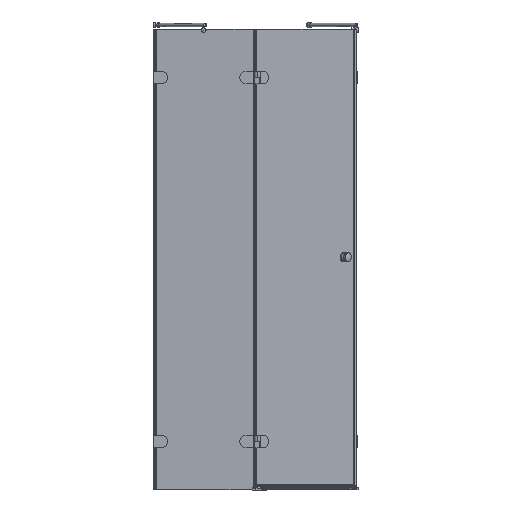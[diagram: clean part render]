
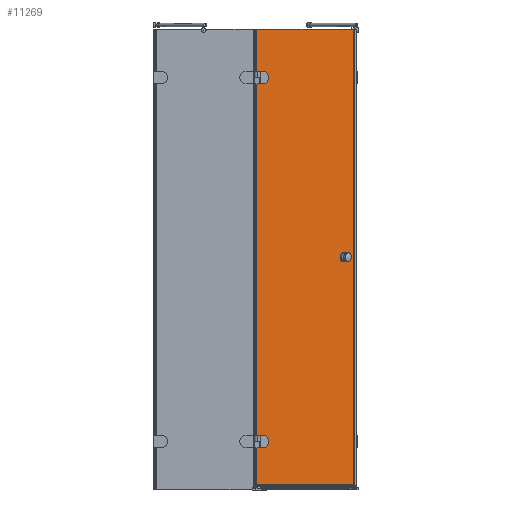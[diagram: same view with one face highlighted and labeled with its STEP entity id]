
A CAD part, front view. The second image highlights one B-rep face of the part: STEP entity #11269.
In plain terms, the highlighted planar face has unit normal (0.707, -0.707, 0).
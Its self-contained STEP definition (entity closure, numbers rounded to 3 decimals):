
#1633=CARTESIAN_POINT('',(824.443,-20.333,-278.056));
#1634=VERTEX_POINT('',#1633);
#1641=CARTESIAN_POINT('',(824.443,-20.333,-330.056));
#1642=VERTEX_POINT('',#1641);
#1643=CARTESIAN_POINT('',(824.443,-20.333,-330.056));
#1644=DIRECTION('',(0.0,0.0,1.0));
#1645=VECTOR('',#1644,52.0);
#1646=LINE('',#1643,#1645);
#1647=EDGE_CURVE('',#1642,#1634,#1646,.T.);
#1672=CARTESIAN_POINT('',(840.707,-4.07,-330.056));
#1673=VERTEX_POINT('',#1672);
#1674=CARTESIAN_POINT('',(840.707,-4.07,-330.056));
#1675=DIRECTION('',(-0.707,-0.707,0.));
#1676=VECTOR('',#1675,23.);
#1677=LINE('',#1674,#1676);
#1678=EDGE_CURVE('',#1673,#1642,#1677,.T.);
#1704=CARTESIAN_POINT('',(840.707,-4.07,-278.056));
#1705=VERTEX_POINT('',#1704);
#1706=CARTESIAN_POINT('',(840.707,-4.07,-304.056));
#1707=DIRECTION('',(-0.707,0.707,0.0));
#1708=DIRECTION('',(0.0,0.0,1.0));
#1709=AXIS2_PLACEMENT_3D('',#1706,#1707,#1708);
#1710=CIRCLE('',#1709,26.0);
#1711=EDGE_CURVE('',#1705,#1673,#1710,.T.);
#1734=CARTESIAN_POINT('',(824.443,-20.333,-278.056));
#1735=DIRECTION('',(0.707,0.707,0.));
#1736=VECTOR('',#1735,23.);
#1737=LINE('',#1734,#1736);
#1738=EDGE_CURVE('',#1634,#1705,#1737,.T.);
#2357=CARTESIAN_POINT('',(824.443,-20.333,1301.944));
#2358=VERTEX_POINT('',#2357);
#2365=CARTESIAN_POINT('',(824.443,-20.333,1249.944));
#2366=VERTEX_POINT('',#2365);
#2367=CARTESIAN_POINT('',(824.443,-20.333,1249.944));
#2368=DIRECTION('',(0.0,0.0,1.0));
#2369=VECTOR('',#2368,52.0);
#2370=LINE('',#2367,#2369);
#2371=EDGE_CURVE('',#2366,#2358,#2370,.T.);
#2396=CARTESIAN_POINT('',(840.707,-4.07,1249.944));
#2397=VERTEX_POINT('',#2396);
#2398=CARTESIAN_POINT('',(840.707,-4.07,1249.944));
#2399=DIRECTION('',(-0.707,-0.707,0.));
#2400=VECTOR('',#2399,23.);
#2401=LINE('',#2398,#2400);
#2402=EDGE_CURVE('',#2397,#2366,#2401,.T.);
#2428=CARTESIAN_POINT('',(840.707,-4.07,1301.944));
#2429=VERTEX_POINT('',#2428);
#2430=CARTESIAN_POINT('',(840.707,-4.07,1275.944));
#2431=DIRECTION('',(-0.707,0.707,0.0));
#2432=DIRECTION('',(0.0,0.0,1.0));
#2433=AXIS2_PLACEMENT_3D('',#2430,#2431,#2432);
#2434=CIRCLE('',#2433,26.0);
#2435=EDGE_CURVE('',#2429,#2397,#2434,.T.);
#2458=CARTESIAN_POINT('',(824.443,-20.333,1301.944));
#2459=DIRECTION('',(0.707,0.707,0.));
#2460=VECTOR('',#2459,23.);
#2461=LINE('',#2458,#2460);
#2462=EDGE_CURVE('',#2358,#2429,#2461,.T.);
#10205=CARTESIAN_POINT('',(1239.515,394.738,-489.456));
#10206=VERTEX_POINT('',#10205);
#10223=CARTESIAN_POINT('',(1239.515,394.738,1485.944));
#10224=VERTEX_POINT('',#10223);
#10232=CARTESIAN_POINT('',(1239.515,394.738,-489.456));
#10233=DIRECTION('',(0.0,0.0,1.0));
#10234=VECTOR('',#10233,1975.4);
#10235=LINE('',#10232,#10234);
#10236=EDGE_CURVE('',#10206,#10224,#10235,.T.);
#10352=CARTESIAN_POINT('',(815.251,-29.526,-489.456));
#10353=VERTEX_POINT('',#10352);
#10354=CARTESIAN_POINT('',(815.251,-29.526,-489.456));
#10355=DIRECTION('',(0.707,0.707,0.));
#10356=VECTOR('',#10355,600.0);
#10357=LINE('',#10354,#10356);
#10358=EDGE_CURVE('',#10353,#10206,#10357,.T.);
#11234=CARTESIAN_POINT('',(815.251,-29.526,-494.056));
#11235=DIRECTION('',(0.707,-0.707,0.));
#11236=DIRECTION('',(0.707,0.707,0.));
#11237=AXIS2_PLACEMENT_3D('',#11234,#11235,#11236);
#11238=PLANE('',#11237);
#11239=ORIENTED_EDGE('',*,*,#10358,.T.);
#11240=ORIENTED_EDGE('',*,*,#10236,.T.);
#11241=CARTESIAN_POINT('',(815.251,-29.526,1485.944));
#11242=VERTEX_POINT('',#11241);
#11243=CARTESIAN_POINT('',(815.251,-29.526,1485.944));
#11244=DIRECTION('',(0.707,0.707,0.0));
#11245=VECTOR('',#11244,600.0);
#11246=LINE('',#11243,#11245);
#11247=EDGE_CURVE('',#11242,#10224,#11246,.T.);
#11248=ORIENTED_EDGE('',*,*,#11247,.F.);
#11249=CARTESIAN_POINT('',(815.251,-29.526,-489.456));
#11250=DIRECTION('',(0.0,0.0,1.0));
#11251=VECTOR('',#11250,1975.4);
#11252=LINE('',#11249,#11251);
#11253=EDGE_CURVE('',#10353,#11242,#11252,.T.);
#11254=ORIENTED_EDGE('',*,*,#11253,.F.);
#11255=EDGE_LOOP('',(#11239,#11240,#11248,#11254));
#11256=FACE_OUTER_BOUND('',#11255,.T.);
#11257=ORIENTED_EDGE('',*,*,#1647,.T.);
#11258=ORIENTED_EDGE('',*,*,#1738,.T.);
#11259=ORIENTED_EDGE('',*,*,#1711,.T.);
#11260=ORIENTED_EDGE('',*,*,#1678,.T.);
#11261=EDGE_LOOP('',(#11257,#11258,#11259,#11260));
#11262=FACE_BOUND('',#11261,.T.);
#11263=ORIENTED_EDGE('',*,*,#2371,.T.);
#11264=ORIENTED_EDGE('',*,*,#2462,.T.);
#11265=ORIENTED_EDGE('',*,*,#2435,.T.);
#11266=ORIENTED_EDGE('',*,*,#2402,.T.);
#11267=EDGE_LOOP('',(#11263,#11264,#11265,#11266));
#11268=FACE_BOUND('',#11267,.T.);
#11269=ADVANCED_FACE('',(#11256,#11262,#11268),#11238,.T.);
